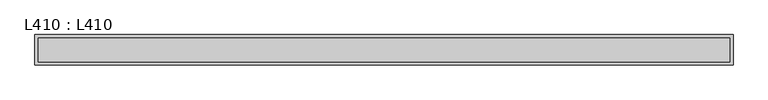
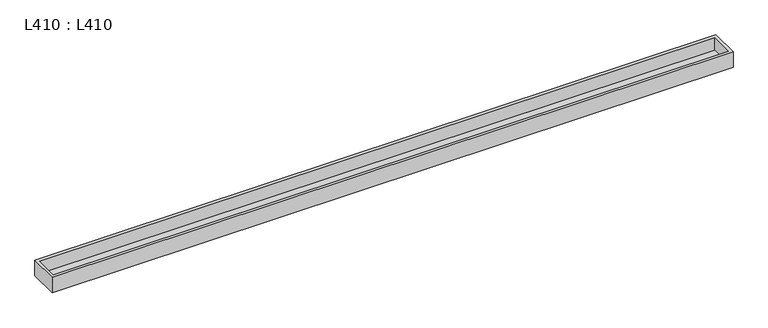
"""IFC4 building model written with IfcOpenShell, lengths in millimetres: light fixture geometry, L410 : L410."""

from ifc_helpers import new_model, si_unit, frame, origin, place, context, project, spatial, polyline, outline, extrude, source, transform, mapped, element, save


def l410_l410_19e1973c(model_context):
    return source(origin(), model_context, "Body", "SweptSolid", [
        extrude(outline(polyline([(558.0, 19.5), (558.0, -19.5), (-558.0, -19.5), (-558.0, 19.5), (558.0, 19.5)])), frame((0.0, 0.0, 2600.0), z_axis=(0.0, 0.0, 1.0), x_axis=(1.0, 0.0, 0.0)), (0.0, 0.0, 1.0), 5.0),
        extrude(outline(polyline([(563.0, 24.5), (563.0, -24.5), (-563.0, -24.5), (-563.0, 24.5), (563.0, 24.5)]), holes=[polyline([(558.0, 19.5), (-558.0, 19.5), (-558.0, -19.5), (558.0, -19.5), (558.0, 19.5)])]), frame((0.0, 0.0, 2600.0), z_axis=(0.0, 0.0, 1.0), x_axis=(1.0, 0.0, 0.0)), (0.0, 0.0, 1.0), 27.0),
    ])


if __name__ == "__main__":
    model = new_model("IFC4")
    model_context = context("Model", 3, world=origin())
    ifc_project = project(units=[si_unit("LENGTHUNIT", "METRE", prefix="MILLI")], contexts=[model_context])
    site = spatial("IfcSite", under=ifc_project)
    building = spatial("IfcBuilding", under=site)
    placement = place(None, origin())
    l410_l410_shape = l410_l410_19e1973c(model_context)
    element("IfcLightFixture", 1, ObjectType="L410 : L410", at=placement, inside=building, context=model_context, shape_type="MappedRepresentation", body=[
        mapped(l410_l410_shape, transform((0.0, 0.0, 0.0), x_axis=(1.0, 0.0, 0.0), y_axis=(0.0, 1.0, 0.0), z_axis=(0.0, 0.0, 1.0))),
    ])
    save(model, "model.ifc")
